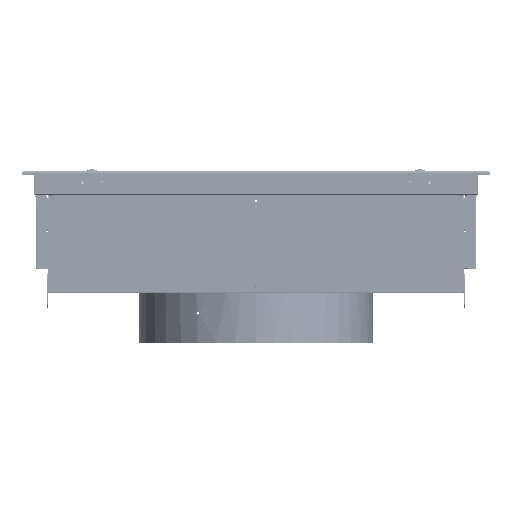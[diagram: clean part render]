
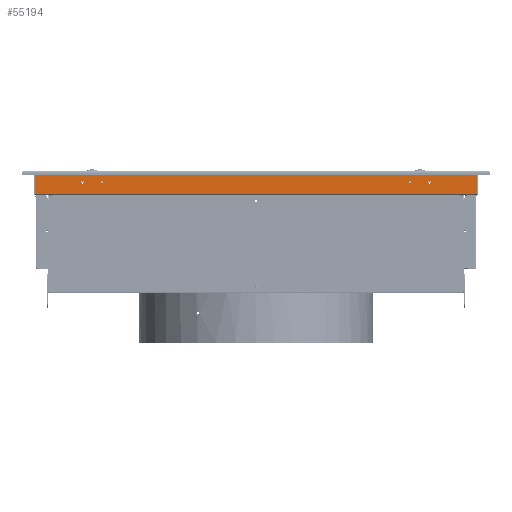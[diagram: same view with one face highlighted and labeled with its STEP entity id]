
A CAD part, left-side view. The second image highlights one B-rep face of the part: STEP entity #55194.
In plain terms, the highlighted planar face has unit normal (-1, 0, 0).
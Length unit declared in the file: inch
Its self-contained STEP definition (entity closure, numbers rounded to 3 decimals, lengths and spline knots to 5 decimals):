
#108 = VERTEX_POINT ( 'NONE', #12791 ) ;
#1187 = DIRECTION ( 'NONE',  ( 0., 0., -1. ) ) ;
#5255 = VERTEX_POINT ( 'NONE', #12920 ) ;
#8137 = ORIENTED_EDGE ( 'NONE', *, *, #66353, .T. ) ;
#9720 = VERTEX_POINT ( 'NONE', #78112 ) ;
#9899 = CARTESIAN_POINT ( 'NONE',  ( -11.268, -13.90153, -1.137 ) ) ;
#10886 = LINE ( 'NONE', #58330, #40436 ) ;
#12242 = CARTESIAN_POINT ( 'NONE',  ( -11.268, 8.8141, -0.5545 ) ) ;
#12791 = CARTESIAN_POINT ( 'NONE',  ( -11.268, -7.8141, -0.4845 ) ) ;
#12920 = CARTESIAN_POINT ( 'NONE',  ( -11.268, 8.8141, -0.6245 ) ) ;
#13066 = ORIENTED_EDGE ( 'NONE', *, *, #81598, .F. ) ;
#14051 = LINE ( 'NONE', #44557, #36252 ) ;
#14933 = ORIENTED_EDGE ( 'NONE', *, *, #29377, .T. ) ;
#15371 = CARTESIAN_POINT ( 'NONE',  ( -11.268, 7.8141, -0.5545 ) ) ;
#16426 = VERTEX_POINT ( 'NONE', #21323 ) ;
#19338 = AXIS2_PLACEMENT_3D ( 'NONE', #64579, #95504, #88014 ) ;
#19410 = AXIS2_PLACEMENT_3D ( 'NONE', #57104, #94047, #86044 ) ;
#19793 = AXIS2_PLACEMENT_3D ( 'NONE', #94977, #36552, #67960 ) ;
#19803 = PLANE ( 'NONE',  #48989 ) ;
#20180 = EDGE_CURVE ( 'NONE', #42023, #59183, #23426, .T. ) ;
#20260 = CIRCLE ( 'NONE', #90447, 0.07 ) ;
#20870 = DIRECTION ( 'NONE',  ( 1., 0., 0. ) ) ;
#20963 = CIRCLE ( 'NONE', #19410, 0.07 ) ;
#21323 = CARTESIAN_POINT ( 'NONE',  ( -11.268, 11.233, -0.066 ) ) ;
#22610 = DIRECTION ( 'NONE',  ( 0., 0., -1. ) ) ;
#23426 = CIRCLE ( 'NONE', #98340, 0.07 ) ;
#23592 = EDGE_CURVE ( 'NONE', #38074, #9720, #97455, .T. ) ;
#25319 = EDGE_CURVE ( 'NONE', #9720, #38074, #20963, .T. ) ;
#26641 = VECTOR ( 'NONE', #69353, 39.37008 ) ;
#27417 = CIRCLE ( 'NONE', #40222, 0.07 ) ;
#28292 = DIRECTION ( 'NONE',  ( 1., 0., 0. ) ) ;
#28855 = ORIENTED_EDGE ( 'NONE', *, *, #20180, .T. ) ;
#29377 = EDGE_CURVE ( 'NONE', #5255, #88609, #37996, .T. ) ;
#29379 = CARTESIAN_POINT ( 'NONE',  ( -11.268, -11.233, -0.066 ) ) ;
#29649 = ORIENTED_EDGE ( 'NONE', *, *, #25319, .T. ) ;
#30208 = DIRECTION ( 'NONE',  ( 1., 0., 0. ) ) ;
#31674 = VERTEX_POINT ( 'NONE', #96136 ) ;
#34833 = FACE_BOUND ( 'NONE', #84934, .T. ) ;
#35840 = CARTESIAN_POINT ( 'NONE',  ( -11.268, -7.8141, -0.6245 ) ) ;
#36252 = VECTOR ( 'NONE', #37052, 39.37008 ) ;
#36552 = DIRECTION ( 'NONE',  ( 1., 0., 0. ) ) ;
#37052 = DIRECTION ( 'NONE',  ( 0., 0., -1. ) ) ;
#37088 = DIRECTION ( 'NONE',  ( 1., 0., 0. ) ) ;
#37996 = CIRCLE ( 'NONE', #93784, 0.07 ) ;
#38074 = VERTEX_POINT ( 'NONE', #82522 ) ;
#38928 = LINE ( 'NONE', #9899, #26641 ) ;
#39069 = EDGE_CURVE ( 'NONE', #85481, #16426, #91606, .T. ) ;
#39876 = EDGE_CURVE ( 'NONE', #61708, #108, #97921, .T. ) ;
#40222 = AXIS2_PLACEMENT_3D ( 'NONE', #69134, #30208, #1187 ) ;
#40436 = VECTOR ( 'NONE', #88757, 39.37008 ) ;
#42023 = VERTEX_POINT ( 'NONE', #51507 ) ;
#42159 = EDGE_LOOP ( 'NONE', ( #64811, #60061 ) ) ;
#43335 = CARTESIAN_POINT ( 'NONE',  ( -11.268, -13.90153, 0. ) ) ;
#44557 = CARTESIAN_POINT ( 'NONE',  ( -11.268, 11.233, 0. ) ) ;
#45275 = DIRECTION ( 'NONE',  ( 0., 0., -1. ) ) ;
#45380 = ORIENTED_EDGE ( 'NONE', *, *, #23592, .T. ) ;
#47205 = DIRECTION ( 'NONE',  ( 0., 1., 0. ) ) ;
#48989 = AXIS2_PLACEMENT_3D ( 'NONE', #43335, #28292, #45275 ) ;
#49375 = CARTESIAN_POINT ( 'NONE',  ( -11.268, 8.8141, -0.4845 ) ) ;
#51507 = CARTESIAN_POINT ( 'NONE',  ( -11.268, 7.8141, -0.6245 ) ) ;
#53343 = CARTESIAN_POINT ( 'NONE',  ( -11.268, 7.8141, -0.4845 ) ) ;
#54040 = CARTESIAN_POINT ( 'NONE',  ( -11.268, -11.233, -1.137 ) ) ;
#55194 = ADVANCED_FACE ( 'NONE', ( #95710, #71282, #34833, #57791, #88211 ), #19803, .F. ) ;
#55980 = EDGE_LOOP ( 'NONE', ( #14933, #82329 ) ) ;
#57104 = CARTESIAN_POINT ( 'NONE',  ( -11.268, -8.8141, -0.5545 ) ) ;
#57791 = FACE_BOUND ( 'NONE', #55980, .T. ) ;
#58322 = CIRCLE ( 'NONE', #19793, 0.07 ) ;
#58330 = CARTESIAN_POINT ( 'NONE',  ( -11.268, -11.233, 0. ) ) ;
#59183 = VERTEX_POINT ( 'NONE', #53343 ) ;
#59343 = DIRECTION ( 'NONE',  ( 0., 0., -1. ) ) ;
#60023 = DIRECTION ( 'NONE',  ( 0., 0., -1. ) ) ;
#60061 = ORIENTED_EDGE ( 'NONE', *, *, #64908, .T. ) ;
#60586 = DIRECTION ( 'NONE',  ( 1., 0., 0. ) ) ;
#61708 = VERTEX_POINT ( 'NONE', #35840 ) ;
#63586 = EDGE_CURVE ( 'NONE', #83640, #85481, #10886, .T. ) ;
#64579 = CARTESIAN_POINT ( 'NONE',  ( -11.268, -8.8141, -0.5545 ) ) ;
#64811 = ORIENTED_EDGE ( 'NONE', *, *, #39876, .T. ) ;
#64908 = EDGE_CURVE ( 'NONE', #108, #61708, #20260, .T. ) ;
#65869 = CARTESIAN_POINT ( 'NONE',  ( -11.268, -7.8141, -0.5545 ) ) ;
#66023 = VECTOR ( 'NONE', #47205, 39.37008 ) ;
#66353 = EDGE_CURVE ( 'NONE', #16426, #31674, #14051, .T. ) ;
#67638 = AXIS2_PLACEMENT_3D ( 'NONE', #65869, #20870, #59343 ) ;
#67960 = DIRECTION ( 'NONE',  ( 0., 0., -1. ) ) ;
#69134 = CARTESIAN_POINT ( 'NONE',  ( -11.268, 8.8141, -0.5545 ) ) ;
#69353 = DIRECTION ( 'NONE',  ( 0., 1., 0. ) ) ;
#71282 = FACE_BOUND ( 'NONE', #81725, .T. ) ;
#74345 = DIRECTION ( 'NONE',  ( 1., 0., 0. ) ) ;
#77132 = CARTESIAN_POINT ( 'NONE',  ( -11.268, -13.90153, -0.066 ) ) ;
#78112 = CARTESIAN_POINT ( 'NONE',  ( -11.268, -8.8141, -0.6245 ) ) ;
#78281 = DIRECTION ( 'NONE',  ( 0., 0., -1. ) ) ;
#78848 = EDGE_CURVE ( 'NONE', #59183, #42023, #58322, .T. ) ;
#80287 = EDGE_LOOP ( 'NONE', ( #97311, #98321, #8137, #13066 ) ) ;
#81598 = EDGE_CURVE ( 'NONE', #83640, #31674, #38928, .T. ) ;
#81725 = EDGE_LOOP ( 'NONE', ( #29649, #45380 ) ) ;
#82329 = ORIENTED_EDGE ( 'NONE', *, *, #88923, .T. ) ;
#82522 = CARTESIAN_POINT ( 'NONE',  ( -11.268, -8.8141, -0.4845 ) ) ;
#83640 = VERTEX_POINT ( 'NONE', #54040 ) ;
#84934 = EDGE_LOOP ( 'NONE', ( #28855, #94496 ) ) ;
#85481 = VERTEX_POINT ( 'NONE', #29379 ) ;
#86044 = DIRECTION ( 'NONE',  ( 0., 0., -1. ) ) ;
#88014 = DIRECTION ( 'NONE',  ( 0., 0., -1. ) ) ;
#88211 = FACE_OUTER_BOUND ( 'NONE', #80287, .T. ) ;
#88609 = VERTEX_POINT ( 'NONE', #49375 ) ;
#88757 = DIRECTION ( 'NONE',  ( 0., 0., 1. ) ) ;
#88923 = EDGE_CURVE ( 'NONE', #88609, #5255, #27417, .T. ) ;
#90447 = AXIS2_PLACEMENT_3D ( 'NONE', #91025, #60586, #22610 ) ;
#91025 = CARTESIAN_POINT ( 'NONE',  ( -11.268, -7.8141, -0.5545 ) ) ;
#91606 = LINE ( 'NONE', #77132, #66023 ) ;
#93784 = AXIS2_PLACEMENT_3D ( 'NONE', #12242, #37088, #60023 ) ;
#94047 = DIRECTION ( 'NONE',  ( 1., 0., 0. ) ) ;
#94496 = ORIENTED_EDGE ( 'NONE', *, *, #78848, .T. ) ;
#94977 = CARTESIAN_POINT ( 'NONE',  ( -11.268, 7.8141, -0.5545 ) ) ;
#95504 = DIRECTION ( 'NONE',  ( 1., 0., 0. ) ) ;
#95710 = FACE_BOUND ( 'NONE', #42159, .T. ) ;
#96136 = CARTESIAN_POINT ( 'NONE',  ( -11.268, 11.233, -1.137 ) ) ;
#97311 = ORIENTED_EDGE ( 'NONE', *, *, #63586, .T. ) ;
#97455 = CIRCLE ( 'NONE', #19338, 0.07 ) ;
#97921 = CIRCLE ( 'NONE', #67638, 0.07 ) ;
#98321 = ORIENTED_EDGE ( 'NONE', *, *, #39069, .T. ) ;
#98340 = AXIS2_PLACEMENT_3D ( 'NONE', #15371, #74345, #78281 ) ;
